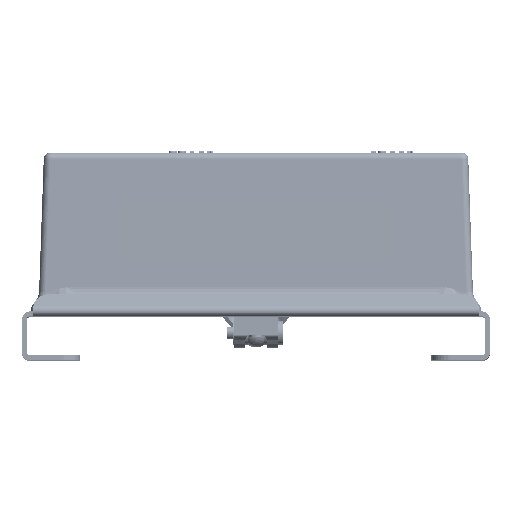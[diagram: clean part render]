
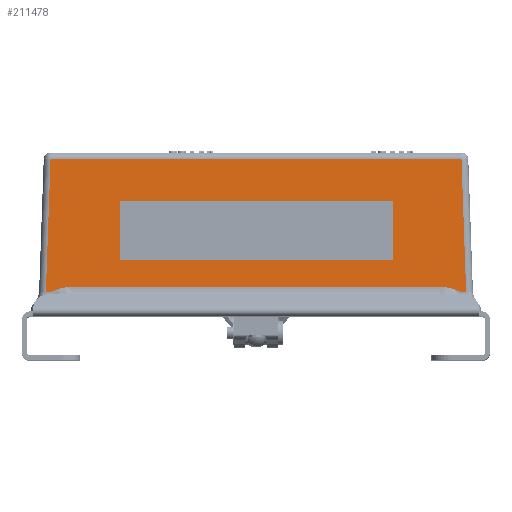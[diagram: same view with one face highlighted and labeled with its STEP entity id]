
A CAD part, top view. The second image highlights one B-rep face of the part: STEP entity #211478.
In plain terms, the highlighted planar face has unit normal (0, 0.035, 0.999).
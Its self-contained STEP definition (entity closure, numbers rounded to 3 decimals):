
#254 = LINE ( 'NONE', #227579, #36896 ) ;
#3031 = DIRECTION ( 'NONE',  ( 1., 0., 0. ) ) ;
#4324 = CARTESIAN_POINT ( 'NONE',  ( 53.528, 18.604, 72.45 ) ) ;
#6817 = CARTESIAN_POINT ( 'NONE',  ( 35.56, -7.605, 73.365 ) ) ;
#12990 =( BOUNDED_CURVE ( )  B_SPLINE_CURVE ( 3, ( #63613, #310500, #87999, #138318 ),
 .UNSPECIFIED., .F., .T. ) 
 B_SPLINE_CURVE_WITH_KNOTS ( ( 4, 4 ),
 ( 2.782, 2.839 ),
 .UNSPECIFIED. ) 
 CURVE ( )  GEOMETRIC_REPRESENTATION_ITEM ( )  RATIONAL_B_SPLINE_CURVE ( ( 1., 1., 1., 1. ) ) 
 REPRESENTATION_ITEM ( '' )  );
#16042 = EDGE_CURVE ( 'NONE', #141967, #105622, #32644, .T. ) ;
#16447 = VECTOR ( 'NONE', #136823, 1000. ) ;
#19319 = LINE ( 'NONE', #137866, #154393 ) ;
#19419 = CARTESIAN_POINT ( 'NONE',  ( 53.152, -15.914, 73.655 ) ) ;
#19489 = CARTESIAN_POINT ( 'NONE',  ( -35.56, 7.715, 72.83 ) ) ;
#24229 = CARTESIAN_POINT ( 'NONE',  ( 48.191, -14.637, 73.611 ) ) ;
#27776 = DIRECTION ( 'NONE',  ( -0.035, 0.999, -0.035 ) ) ;
#30581 = LINE ( 'NONE', #225565, #173240 ) ;
#32644 = LINE ( 'NONE', #105725, #244782 ) ;
#36896 = VECTOR ( 'NONE', #128483, 1000. ) ;
#37738 = VERTEX_POINT ( 'NONE', #156160 ) ;
#40594 = CARTESIAN_POINT ( 'NONE',  ( 0., 18.604, 72.45 ) ) ;
#40919 = VERTEX_POINT ( 'NONE', #4324 ) ;
#41762 = VERTEX_POINT ( 'NONE', #98014 ) ;
#45013 = ORIENTED_EDGE ( 'NONE', *, *, #191070, .T. ) ;
#46127 = LINE ( 'NONE', #145173, #182265 ) ;
#46527 = VERTEX_POINT ( 'NONE', #165451 ) ;
#47030 = CARTESIAN_POINT ( 'NONE',  ( 0., 20.32, 72.39 ) ) ;
#53399 = FACE_BOUND ( 'NONE', #59292, .T. ) ;
#54042 = VERTEX_POINT ( 'NONE', #19489 ) ;
#58968 =( BOUNDED_CURVE ( )  B_SPLINE_CURVE ( 3, ( #195216, #193612, #294304, #65337 ),
 .UNSPECIFIED., .F., .F. ) 
 B_SPLINE_CURVE_WITH_KNOTS ( ( 4, 4 ),
 ( 0.303, 0.36 ),
 .UNSPECIFIED. ) 
 CURVE ( )  GEOMETRIC_REPRESENTATION_ITEM ( )  RATIONAL_B_SPLINE_CURVE ( ( 1., 1., 1., 1. ) ) 
 REPRESENTATION_ITEM ( '' )  );
#59292 = EDGE_LOOP ( 'NONE', ( #146663, #94336, #275348, #45013 ) ) ;
#59818 = DIRECTION ( 'NONE',  ( 1., 0., 0. ) ) ;
#62234 = EDGE_CURVE ( 'NONE', #214968, #123622, #58968, .T. ) ;
#63613 = CARTESIAN_POINT ( 'NONE',  ( -54.734, -15.936, 73.656 ) ) ;
#65337 = CARTESIAN_POINT ( 'NONE',  ( 54.734, -15.936, 73.656 ) ) ;
#71086 = DIRECTION ( 'NONE',  ( 1., 0., 0. ) ) ;
#72978 = FACE_OUTER_BOUND ( 'NONE', #250648, .T. ) ;
#84207 = LINE ( 'NONE', #183274, #96719 ) ;
#84918 = CARTESIAN_POINT ( 'NONE',  ( -52.308, -15.486, 73.64 ) ) ;
#86106 = CARTESIAN_POINT ( 'NONE',  ( 54.734, -15.936, 73.656 ) ) ;
#87999 = CARTESIAN_POINT ( 'NONE',  ( -54.402, -15.914, 73.655 ) ) ;
#92471 = CARTESIAN_POINT ( 'NONE',  ( 48.662, -14.663, 73.612 ) ) ;
#92922 = LINE ( 'NONE', #115719, #16447 ) ;
#94336 = ORIENTED_EDGE ( 'NONE', *, *, #98631, .T. ) ;
#95799 = VECTOR ( 'NONE', #241986, 1000. ) ;
#96642 = B_SPLINE_CURVE_WITH_KNOTS ( 'NONE', 3,
 ( #245162, #24229, #92471, #123305, #297056, #168782, #197949, #19419 ),
 .UNSPECIFIED., .F., .F.,
 ( 4, 2, 2, 4 ),
 ( 0., 0.001, 0.003, 0.006 ),
 .UNSPECIFIED. ) ;
#96719 = VECTOR ( 'NONE', #59818, 1000. ) ;
#97340 = DIRECTION ( 'NONE',  ( 0., 0.999, -0.035 ) ) ;
#98014 = CARTESIAN_POINT ( 'NONE',  ( 53.152, -15.914, 73.655 ) ) ;
#98631 = EDGE_CURVE ( 'NONE', #187244, #54042, #19319, .T. ) ;
#105622 = VERTEX_POINT ( 'NONE', #160439 ) ;
#105725 = CARTESIAN_POINT ( 'NONE',  ( -53.403, 22.183, 72.325 ) ) ;
#111723 = ORIENTED_EDGE ( 'NONE', *, *, #200282, .T. ) ;
#115719 = CARTESIAN_POINT ( 'NONE',  ( 0., -15.914, 73.655 ) ) ;
#116826 = EDGE_CURVE ( 'NONE', #187244, #132808, #237104, .T. ) ;
#119834 = CARTESIAN_POINT ( 'NONE',  ( 0., -15.914, 73.655 ) ) ;
#123305 = CARTESIAN_POINT ( 'NONE',  ( 49.601, -14.769, 73.615 ) ) ;
#123622 = VERTEX_POINT ( 'NONE', #86106 ) ;
#127190 = ORIENTED_EDGE ( 'NONE', *, *, #260720, .T. ) ;
#128483 = DIRECTION ( 'NONE',  ( 0., -0.999, 0.035 ) ) ;
#130950 = ORIENTED_EDGE ( 'NONE', *, *, #302536, .T. ) ;
#132808 = VERTEX_POINT ( 'NONE', #6817 ) ;
#136823 = DIRECTION ( 'NONE',  ( 1., 0., 0. ) ) ;
#137866 = CARTESIAN_POINT ( 'NONE',  ( -35.56, 20.32, 72.39 ) ) ;
#138318 = CARTESIAN_POINT ( 'NONE',  ( -54.242, -15.914, 73.655 ) ) ;
#141967 = VERTEX_POINT ( 'NONE', #164825 ) ;
#142532 = ORIENTED_EDGE ( 'NONE', *, *, #16042, .T. ) ;
#144024 = ORIENTED_EDGE ( 'NONE', *, *, #213261, .T. ) ;
#145173 = CARTESIAN_POINT ( 'NONE',  ( 53.403, 22.183, 72.325 ) ) ;
#146082 = DIRECTION ( 'NONE',  ( 0., 0.035, 0.999 ) ) ;
#146663 = ORIENTED_EDGE ( 'NONE', *, *, #116826, .F. ) ;
#153252 = VERTEX_POINT ( 'NONE', #227110 ) ;
#154393 = VECTOR ( 'NONE', #237027, 1000. ) ;
#156160 = CARTESIAN_POINT ( 'NONE',  ( -53.152, -15.914, 73.655 ) ) ;
#158015 = CARTESIAN_POINT ( 'NONE',  ( -51.411, -15.162, 73.629 ) ) ;
#160439 = CARTESIAN_POINT ( 'NONE',  ( -54.734, -15.936, 73.656 ) ) ;
#160670 = B_SPLINE_CURVE_WITH_KNOTS ( 'NONE', 3,
 ( #235974, #84918, #158015, #258694, #213173, #234362 ),
 .UNSPECIFIED., .F., .F.,
 ( 4, 2, 4 ),
 ( 0., 0.003, 0.006 ),
 .UNSPECIFIED. ) ;
#163093 = EDGE_CURVE ( 'NONE', #46527, #37738, #92922, .T. ) ;
#164825 = CARTESIAN_POINT ( 'NONE',  ( -53.528, 18.604, 72.45 ) ) ;
#165451 = CARTESIAN_POINT ( 'NONE',  ( -54.242, -15.914, 73.655 ) ) ;
#168782 = CARTESIAN_POINT ( 'NONE',  ( 51.431, -15.168, 73.629 ) ) ;
#171555 = EDGE_CURVE ( 'NONE', #105622, #46527, #12990, .T. ) ;
#172880 = CARTESIAN_POINT ( 'NONE',  ( -47.718, -14.637, 73.611 ) ) ;
#173240 = VECTOR ( 'NONE', #3031, 1000. ) ;
#174439 = ORIENTED_EDGE ( 'NONE', *, *, #171555, .T. ) ;
#182265 = VECTOR ( 'NONE', #27776, 1000. ) ;
#183274 = CARTESIAN_POINT ( 'NONE',  ( 0., 7.715, 72.83 ) ) ;
#185035 = VERTEX_POINT ( 'NONE', #260727 ) ;
#187244 = VERTEX_POINT ( 'NONE', #199263 ) ;
#191070 = EDGE_CURVE ( 'NONE', #153252, #132808, #254, .T. ) ;
#192616 = ORIENTED_EDGE ( 'NONE', *, *, #163093, .T. ) ;
#193612 = CARTESIAN_POINT ( 'NONE',  ( 54.402, -15.914, 73.655 ) ) ;
#195216 = CARTESIAN_POINT ( 'NONE',  ( 54.242, -15.914, 73.655 ) ) ;
#197949 = CARTESIAN_POINT ( 'NONE',  ( 52.308, -15.487, 73.64 ) ) ;
#198738 = VECTOR ( 'NONE', #311735, 1000. ) ;
#199263 = CARTESIAN_POINT ( 'NONE',  ( -35.56, -7.605, 73.365 ) ) ;
#200282 = EDGE_CURVE ( 'NONE', #267135, #185035, #30581, .T. ) ;
#211478 = ADVANCED_FACE ( 'NONE', ( #72978, #53399 ), #250002, .T. ) ;
#212677 = CARTESIAN_POINT ( 'NONE',  ( 0., -7.605, 73.365 ) ) ;
#213173 = CARTESIAN_POINT ( 'NONE',  ( -48.664, -14.637, 73.611 ) ) ;
#213261 = EDGE_CURVE ( 'NONE', #40919, #141967, #214374, .T. ) ;
#214374 = LINE ( 'NONE', #40594, #95799 ) ;
#214968 = VERTEX_POINT ( 'NONE', #235587 ) ;
#216625 = EDGE_CURVE ( 'NONE', #54042, #153252, #84207, .T. ) ;
#225565 = CARTESIAN_POINT ( 'NONE',  ( 48.094, -14.637, 73.611 ) ) ;
#227110 = CARTESIAN_POINT ( 'NONE',  ( 35.56, 7.715, 72.83 ) ) ;
#227579 = CARTESIAN_POINT ( 'NONE',  ( 35.56, 20.32, 72.39 ) ) ;
#231671 = ORIENTED_EDGE ( 'NONE', *, *, #62234, .T. ) ;
#234362 = CARTESIAN_POINT ( 'NONE',  ( -47.718, -14.637, 73.611 ) ) ;
#235587 = CARTESIAN_POINT ( 'NONE',  ( 54.242, -15.914, 73.655 ) ) ;
#235974 = CARTESIAN_POINT ( 'NONE',  ( -53.152, -15.914, 73.655 ) ) ;
#237027 = DIRECTION ( 'NONE',  ( 0., 0.999, -0.035 ) ) ;
#237104 = LINE ( 'NONE', #212677, #198738 ) ;
#240539 = AXIS2_PLACEMENT_3D ( 'NONE', #47030, #146082, #97340 ) ;
#241986 = DIRECTION ( 'NONE',  ( -1., 0., 0. ) ) ;
#244782 = VECTOR ( 'NONE', #279523, 1000. ) ;
#245162 = CARTESIAN_POINT ( 'NONE',  ( 47.718, -14.637, 73.611 ) ) ;
#250002 = PLANE ( 'NONE',  #240539 ) ;
#250648 = EDGE_LOOP ( 'NONE', ( #127190, #144024, #142532, #174439, #192616, #130950, #111723, #263536, #304456, #231671 ) ) ;
#258694 = CARTESIAN_POINT ( 'NONE',  ( -49.592, -14.74, 73.614 ) ) ;
#260720 = EDGE_CURVE ( 'NONE', #123622, #40919, #46127, .T. ) ;
#260727 = CARTESIAN_POINT ( 'NONE',  ( 47.718, -14.637, 73.611 ) ) ;
#263536 = ORIENTED_EDGE ( 'NONE', *, *, #297674, .T. ) ;
#267135 = VERTEX_POINT ( 'NONE', #172880 ) ;
#275348 = ORIENTED_EDGE ( 'NONE', *, *, #216625, .T. ) ;
#279523 = DIRECTION ( 'NONE',  ( -0.035, -0.999, 0.035 ) ) ;
#294304 = CARTESIAN_POINT ( 'NONE',  ( 54.567, -15.921, 73.656 ) ) ;
#297056 = CARTESIAN_POINT ( 'NONE',  ( 50.066, -14.849, 73.618 ) ) ;
#297674 = EDGE_CURVE ( 'NONE', #185035, #41762, #96642, .T. ) ;
#302536 = EDGE_CURVE ( 'NONE', #37738, #267135, #160670, .T. ) ;
#304456 = ORIENTED_EDGE ( 'NONE', *, *, #304950, .T. ) ;
#304950 = EDGE_CURVE ( 'NONE', #41762, #214968, #319558, .T. ) ;
#310500 = CARTESIAN_POINT ( 'NONE',  ( -54.567, -15.921, 73.656 ) ) ;
#311735 = DIRECTION ( 'NONE',  ( 1., 0., 0. ) ) ;
#313986 = VECTOR ( 'NONE', #71086, 1000. ) ;
#319558 = LINE ( 'NONE', #119834, #313986 ) ;
